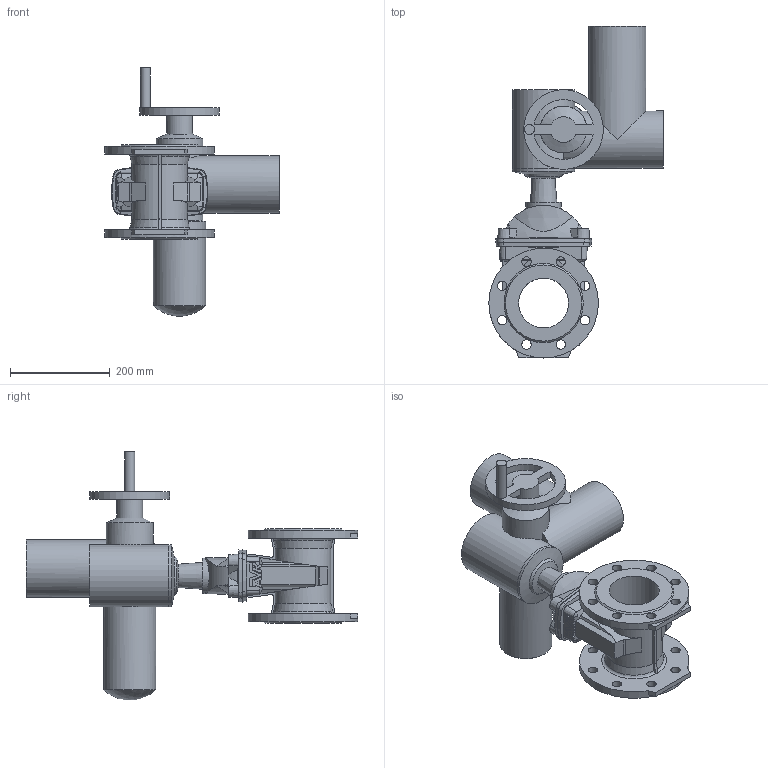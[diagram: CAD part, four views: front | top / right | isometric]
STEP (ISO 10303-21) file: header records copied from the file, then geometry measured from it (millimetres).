
FILE_DESCRIPTION (( 'STEP AP203' ), '1' );
FILE_NAME ('O_15_42_DN100_X1XXX099_SA07.6_AA0.step', '2017-03-20T12:33:55', ( 'Windows User' ), ( 'AVK' ), 'SwSTEP 2.0', 'SolidWorks 2012', '' );
FILE_SCHEMA (( 'CONFIG_CONTROL_DESIGN' ));
Length unit declared in the file: inch
Products named in the file (1): O_15_42_DN100_X1XXX099_SA07.6_AA0
Bounding box: 350 x 666.2 x 498.55 mm (x, y, z)
Volume: 11411654.3 mm3; surface area: 742694.2 mm2
Topology: 1 solids, 1 shells, 331 faces, 943 edges, 622 vertices
Faces by surface type: plane 145, cylinder 91, cone 90, sphere 3, torus 2
Full cylindrical faces by diameter (mm): 19 x16, 20 x1, 22 x1, 52.112 x1, 71 x1, 93.905 x1, 100 x1, 105 x1, 115 x2, 125 x2, 160 x1, 220 x2
Entity records: 11629 total; most frequent: CARTESIAN_POINT 3225, ORIENTED_EDGE 1732, DIRECTION 1710, EDGE_CURVE 866, AXIS2_PLACEMENT_3D 627, VERTEX_POINT 590, VECTOR 456, LINE 456
